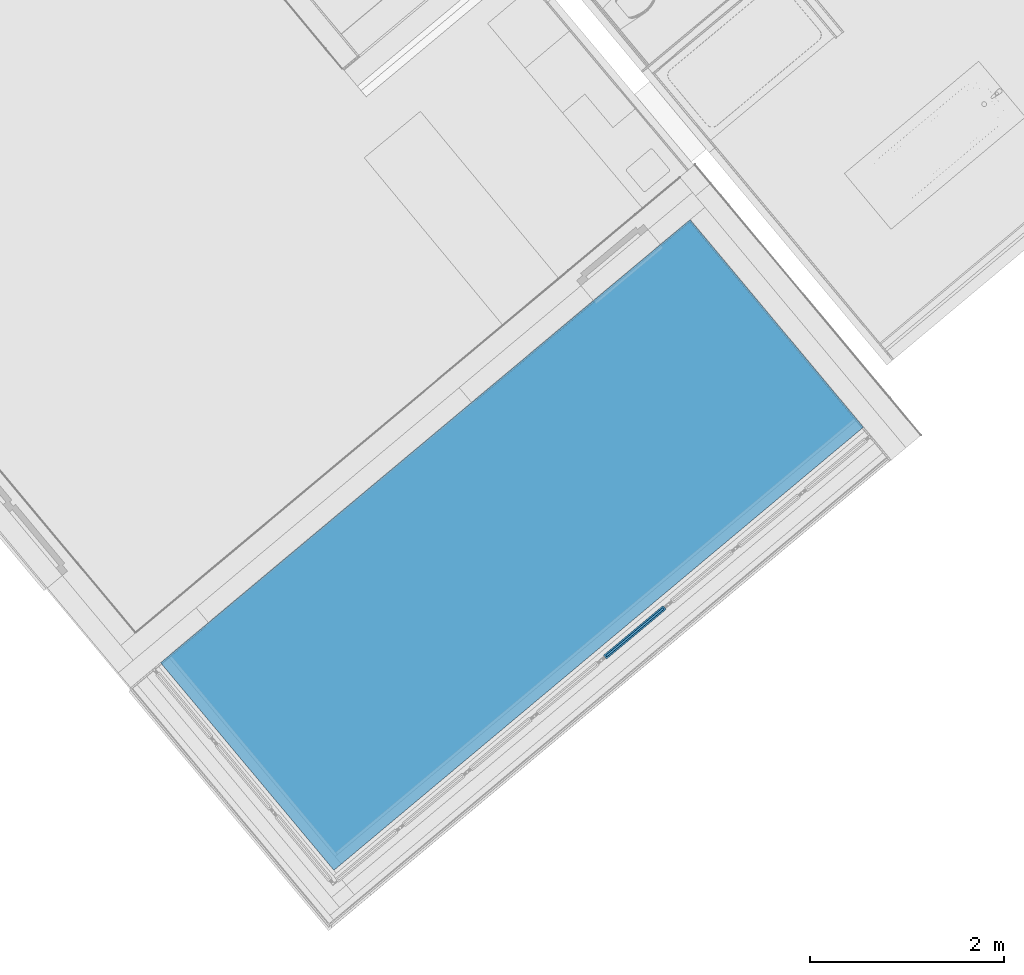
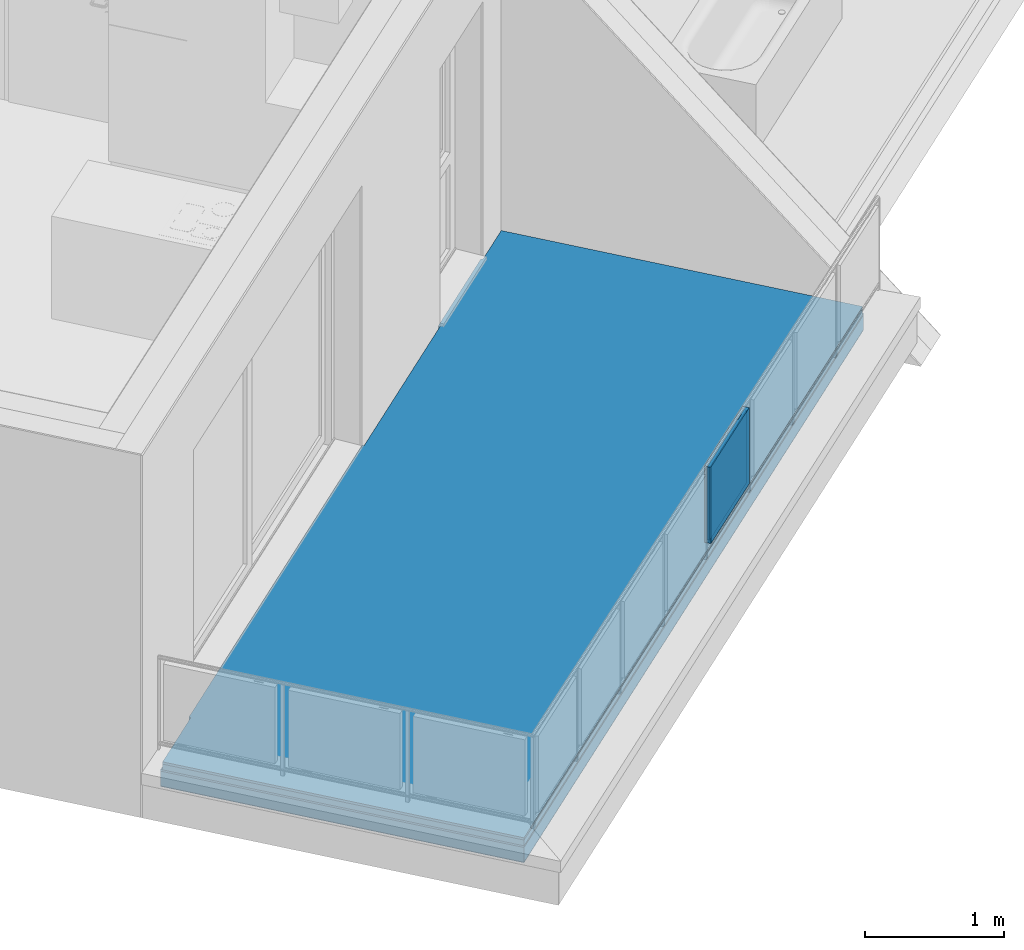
# One storey, part 16 of 50: 7 building element parts, 2 elements without a shape of their own.
"""IFC4 building model written with IfcOpenShell, lengths in metres."""

from ifc_helpers import new_model, entity, si_unit, converted_unit, derived_unit, direction, frame, origin_with_axes, place, context, subcontext, project, spatial, polygons, material, type_object, element, aggregate, save


model = new_model("IFC4")

# Units and contexts
model_context = context("Model", 3, precision=1e-05, world=origin_with_axes(), true_north=direction((0.0, 1.0)))
body_context = subcontext(model_context, "Body", "Model", "MODEL_VIEW")
ifc_project = project(units=[si_unit("LENGTHUNIT", "METRE"), si_unit("AREAUNIT", "SQUARE_METRE"), si_unit("VOLUMEUNIT", "CUBIC_METRE"), converted_unit("PLANEANGLEUNIT", "DEGREE", entity("IfcPlaneAngleMeasure", 0.0174532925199), si_unit("PLANEANGLEUNIT", "RADIAN"), dimensions=[0, 0, 0, 0, 0, 0, 0]), converted_unit("TIMEUNIT", "Year", entity("IfcTimeMeasure", 31556926.0), si_unit("TIMEUNIT", "SECOND"), dimensions=[0, 0, 1, 0, 0, 0, 0]), si_unit("MASSUNIT", "GRAM", prefix="KILO"), si_unit("THERMODYNAMICTEMPERATUREUNIT", "DEGREE_CELSIUS"), si_unit("LUMINOUSINTENSITYUNIT", "LUMEN"), si_unit("ENERGYUNIT", "JOULE", prefix="MEGA"), derived_unit("THERMALCONDUCTANCEUNIT", [(si_unit("POWERUNIT", "WATT"), 1), (si_unit("LENGTHUNIT", "METRE"), -1), (si_unit("THERMODYNAMICTEMPERATUREUNIT", "KELVIN"), -1)]), derived_unit("SPECIFICHEATCAPACITYUNIT", [(si_unit("ENERGYUNIT", "JOULE"), 1), (si_unit("MASSUNIT", "GRAM", prefix="KILO"), -1), (si_unit("THERMODYNAMICTEMPERATUREUNIT", "KELVIN"), -1)]), derived_unit("MASSDENSITYUNIT", [(si_unit("MASSUNIT", "GRAM", prefix="KILO"), 1), (si_unit("VOLUMEUNIT", "CUBIC_METRE"), -1)])], contexts=[model_context])

# Site, building, storey
site_placement = place(None, frame((-0.00153261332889, -0.00661245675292, 0.0), z_axis=(0.0, 0.0, 1.0), x_axis=(1.0, 0.0, 0.0)))
site = spatial("IfcSite", under=ifc_project, at=site_placement, Name="Gelände", CompositionType="ELEMENT")
building_placement = place(site_placement, origin_with_axes())
building = spatial("IfcBuilding", under=site, at=building_placement, Name="Gebäude", CompositionType="ELEMENT")
storey_placement = place(building_placement, frame((0.0, 0.0, 8.66), z_axis=(0.0, 0.0, 1.0), x_axis=(1.0, 0.0, 0.0)))
storey = spatial("IfcBuildingStorey", under=building, at=storey_placement, Name="DG2", CompositionType="ELEMENT", Elevation=8.66)

# Covering, building element parts
covering_type = type_object("IfcCoveringType", Name="Balkon vor Terrasse 220", PredefinedType="NOTDEFINED")
covering_placement = place(storey_placement, frame((-2.99015431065, 12.852759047, 0.0), z_axis=(0.0, 0.0, 1.0), x_axis=(1.0, 0.0, 0.0)))
covering = element("IfcCovering", 1, at=covering_placement, inside=storey, type_object=covering_type, Name="Decke-005", PredefinedType="NOTDEFINED")
ifc_material_1 = material(Name="Platten")
building_element_part_1_placement = place(covering_placement, origin_with_axes())
building_element_part_1 = element("IfcBuildingElementPart", 2, at=building_element_part_1_placement, material=ifc_material_1, Name="Platten", PredefinedType="NOTDEFINED", context=body_context, shape_type="Tessellation", body=[
    polygons([(7.22371968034, 2.41545678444, 0.2), (7.22371968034, 2.41545678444, 0.22), (1.78439120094, -2.13565510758, 0.22), (1.78439120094, -2.13565510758, 0.2), (5.44883995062, 4.53951213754, 0.22), (5.44883995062, 4.53951213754, 0.2), (5.1556124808, 4.2941673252, 0.22), (5.14598684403, 4.3056715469, 0.22), (4.45573354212, 3.72813334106, 0.22), (4.46535917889, 3.71662911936, 0.22), (3.25023922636, 2.69993250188, 0.22), (3.24061358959, 2.71143672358, 0.22), (0.455075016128, 0.380763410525, 0.22), (0.464700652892, 0.369259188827, 0.22), (0.00961764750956, -0.0115109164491, 0.22), (0.00961764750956, -0.0115109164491, 0.2), (0.464700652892, 0.369259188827, 0.2), (0.455075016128, 0.380763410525, 0.2), (3.24061358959, 2.71143672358, 0.2), (3.25023922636, 2.69993250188, 0.2), (4.46535917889, 3.71662911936, 0.2), (4.45573354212, 3.72813334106, 0.2), (5.14598684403, 4.3056715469, 0.2), (5.1556124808, 4.2941673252, 0.2)], [[[1, 2, 3, 4]], [[5, 2, 1, 6]], [[2, 5, 7, 8, 9, 10, 11, 12, 13, 14, 15, 3]], [[15, 16, 4, 3]], [[6, 1, 4, 16, 17, 18, 19, 20, 21, 22, 23, 24]], [[5, 6, 24, 7]], [[8, 7, 24, 23]], [[22, 9, 8, 23]], [[10, 9, 22, 21]], [[11, 10, 21, 20]], [[12, 11, 20, 19]], [[18, 13, 12, 19]], [[14, 13, 18, 17]], [[15, 14, 17, 16]]], closed=True),
])
ifc_material_2 = material(Name="Luftschicht horizontal")
building_element_part_2_placement = place(covering_placement, origin_with_axes())
building_element_part_2 = element("IfcBuildingElementPart", 3, at=building_element_part_2_placement, material=ifc_material_2, Name="Luftschicht horizontal", PredefinedType="NOTDEFINED", context=body_context, shape_type="Tessellation", body=[
    polygons([(7.22371968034, 2.41545678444, 0.15), (7.22371968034, 2.41545678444, 0.2), (1.78439120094, -2.13565510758, 0.2), (1.78439120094, -2.13565510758, 0.15), (5.44883995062, 4.53951213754, 0.2), (5.44883995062, 4.53951213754, 0.15), (5.1556124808, 4.2941673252, 0.2), (5.14598684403, 4.3056715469, 0.2), (4.45573354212, 3.72813334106, 0.2), (4.46535917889, 3.71662911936, 0.2), (3.25023922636, 2.69993250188, 0.2), (3.24061358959, 2.71143672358, 0.2), (0.455075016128, 0.380763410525, 0.2), (0.464700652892, 0.369259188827, 0.2), (0.00961764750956, -0.0115109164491, 0.2), (0.00961764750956, -0.0115109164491, 0.15), (0.464700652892, 0.369259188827, 0.15), (0.455075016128, 0.380763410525, 0.15), (3.24061358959, 2.71143672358, 0.15), (3.25023922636, 2.69993250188, 0.15), (4.46535917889, 3.71662911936, 0.15), (4.45573354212, 3.72813334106, 0.15), (5.14598684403, 4.3056715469, 0.15), (5.1556124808, 4.2941673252, 0.15)], [[[1, 2, 3, 4]], [[5, 2, 1, 6]], [[2, 5, 7, 8, 9, 10, 11, 12, 13, 14, 15, 3]], [[15, 16, 4, 3]], [[6, 1, 4, 16, 17, 18, 19, 20, 21, 22, 23, 24]], [[5, 6, 24, 7]], [[8, 7, 24, 23]], [[22, 9, 8, 23]], [[10, 9, 22, 21]], [[11, 10, 21, 20]], [[12, 11, 20, 19]], [[18, 13, 12, 19]], [[14, 13, 18, 17]], [[15, 14, 17, 16]]], closed=True),
])
ifc_material_3 = material(Name="Sperrschicht")
building_element_part_3_placement = place(covering_placement, origin_with_axes())
building_element_part_3 = element("IfcBuildingElementPart", 4, at=building_element_part_3_placement, material=ifc_material_3, Name="Sperrschicht", PredefinedType="NOTDEFINED", context=body_context, shape_type="Tessellation", body=[
    polygons([(1.78439120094, -2.13565510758, 0.135), (1.78439120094, -2.13565510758, 0.15), (0.0, 0.0, 0.15), (0.0, 0.0, 0.135), (7.23522390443, 2.4250824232, 0.135), (7.23522390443, 2.4250824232, 0.15), (5.4507259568, 4.56064820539, 0.15), (5.4507259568, 4.56064820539, 0.135)], [[[1, 2, 3, 4]], [[5, 6, 2, 1]], [[3, 2, 6, 7]], [[4, 3, 7, 8]], [[4, 8, 5, 1]], [[8, 7, 6, 5]]], closed=True),
])
ifc_material_4 = material(Name="XPS")
building_element_part_4_placement = place(covering_placement, origin_with_axes())
building_element_part_4 = element("IfcBuildingElementPart", 5, at=building_element_part_4_placement, material=ifc_material_4, Name="XPS", PredefinedType="NOTDEFINED", context=body_context, shape_type="Tessellation", body=[
    polygons([(1.78439120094, -2.13565510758, 0.005), (1.78439120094, -2.13565510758, 0.135), (0.0, 0.0, 0.135), (0.0, 0.0, 0.005), (7.23522390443, 2.4250824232, 0.005), (7.23522390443, 2.4250824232, 0.135), (5.4507259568, 4.56064820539, 0.135), (5.4507259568, 4.56064820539, 0.005)], [[[1, 2, 3, 4]], [[5, 6, 2, 1]], [[3, 2, 6, 7]], [[4, 3, 7, 8]], [[4, 8, 5, 1]], [[8, 7, 6, 5]]], closed=True),
])
building_element_part_5_placement = place(covering_placement, origin_with_axes())
building_element_part_5 = element("IfcBuildingElementPart", 6, at=building_element_part_5_placement, material=ifc_material_3, Name="Sperrschicht", PredefinedType="NOTDEFINED", context=body_context, shape_type="Tessellation", body=[
    polygons([(0.0, 0.0, 0.0), (1.78439120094, -2.13565510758, 0.0), (1.78439120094, -2.13565510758, 0.005), (0.0, 0.0, 0.005), (5.4507259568, 4.56064820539, 0.0), (7.23522390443, 2.4250824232, 0.0), (7.23522390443, 2.4250824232, 0.005), (5.4507259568, 4.56064820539, 0.005)], [[[1, 2, 3, 4]], [[1, 5, 6, 2]], [[2, 6, 7, 3]], [[4, 3, 7, 8]], [[5, 1, 4, 8]], [[6, 5, 8, 7]]], closed=True),
])
aggregate(covering, [building_element_part_1, building_element_part_2, building_element_part_3, building_element_part_4, building_element_part_5])

# Space
space_placement = place(storey_placement, frame((2.45868563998, 17.3922711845, 0.22), z_axis=(0.0, 0.0, 1.0), x_axis=(-0.766948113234, -0.641709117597, 0.0)))
space = spatial("IfcSpace", under=storey, at=space_placement, CompositionType="ELEMENT", PredefinedType="NOTDEFINED")

# Railing, building element parts
railing_type = type_object("IfcRailingType", Name="Geländerart", PredefinedType="NOTDEFINED")
railing_placement = place(space_placement, frame((7.13717596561, 0.00077071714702, 0.16), z_axis=(0.0, 0.0, 1.0), x_axis=(-0.766948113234, 0.641709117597, 0.0)))
railing = element("IfcRailing", 7, at=railing_placement, inside=space, type_object=railing_type, Name="Geländer - 001", PredefinedType="NOTDEFINED")
ifc_material_5 = material(Name="Profilit")
building_element_part_6_placement = place(railing_placement, origin_with_axes())
building_element_part_6 = element("IfcBuildingElementPart", 8, at=building_element_part_6_placement, material=ifc_material_5, Name="Profilit", PredefinedType="NOTDEFINED", context=body_context, shape_type="Tessellation", body=[
    polygons([(5.19569313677, 0.608795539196, 0.135), (4.60535705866, 0.11714497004, 0.135), (4.60535705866, 0.11714497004, 0.775), (5.19569313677, 0.608795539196, 0.775), (4.61815619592, 0.101776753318, 0.135), (5.20849227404, 0.593427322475, 0.135), (4.61815619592, 0.101776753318, 0.775), (5.20849227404, 0.593427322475, 0.775)], [[[1, 2, 3, 4]], [[5, 2, 1, 6]], [[7, 3, 2, 5]], [[4, 3, 7, 8]], [[1, 4, 8, 6]], [[7, 5, 6, 8]]], closed=True),
])
ifc_material_6 = material(Name="Aluminium")
building_element_part_7_placement = place(railing_placement, origin_with_axes())
building_element_part_7 = element("IfcBuildingElementPart", 9, at=building_element_part_7_placement, material=ifc_material_6, Name="Aluminium", PredefinedType="NOTDEFINED", context=body_context, shape_type="Tessellation", body=[
    polygons([(4.6754716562, 0.165778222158, 0.12), (4.72926041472, 0.210575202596, 0.12), (4.72926041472, 0.210575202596, 0.095), (4.6754716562, 0.165778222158, 0.095), (4.67867144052, 0.161936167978, 0.12), (4.73246019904, 0.206733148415, 0.12), (4.73246019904, 0.206733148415, 0.095), (4.67867144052, 0.161936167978, 0.095)], [[[1, 2, 3, 4]], [[5, 6, 2, 1]], [[2, 6, 7, 3]], [[4, 3, 7, 8]], [[1, 4, 8, 5]], [[8, 7, 6, 5]]], closed=True),
    polygons([(5.13517789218, 0.548636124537, 0.79), (5.08138913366, 0.503839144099, 0.79), (5.08138913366, 0.503839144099, 0.795), (5.13517789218, 0.548636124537, 0.795), (5.1383776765, 0.544794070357, 0.79), (5.08458891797, 0.499997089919, 0.79), (5.08458891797, 0.499997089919, 0.795), (5.1383776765, 0.544794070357, 0.795)], [[[1, 2, 3, 4]], [[5, 6, 2, 1]], [[2, 6, 7, 3]], [[4, 3, 7, 8]], [[1, 4, 8, 5]], [[8, 7, 6, 5]]], closed=True),
    polygons([(4.61622938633, 0.0806512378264, 0.12), (4.58423154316, 0.11907177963, 0.12), (5.19761994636, 0.629921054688, 0.12), (5.22961778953, 0.591500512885, 0.12), (4.63159760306, 0.0934503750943, 0.14), (4.6219982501, 0.104976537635, 0.14), (4.61815619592, 0.101776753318, 0.135), (4.60535705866, 0.11714497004, 0.135), (4.60919911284, 0.120344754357, 0.14), (4.59959975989, 0.131870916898, 0.14), (5.18225172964, 0.61712191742, 0.14), (5.18225172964, 0.61712191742, 0.77), (4.59959975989, 0.131870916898, 0.77), (4.59959975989, 0.131870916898, 0.14), (4.58423154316, 0.11907177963, 0.12), (4.58423154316, 0.11907177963, 0.79), (5.19761994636, 0.629921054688, 0.79), (5.22961778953, 0.591500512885, 0.79), (4.61622938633, 0.0806512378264, 0.79), (4.61622938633, 0.0806512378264, 0.12), (4.63159760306, 0.0934503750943, 0.14), (4.63159760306, 0.0934503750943, 0.77), (5.21424957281, 0.578701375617, 0.77), (5.21424957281, 0.578701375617, 0.14), (5.20465021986, 0.590227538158, 0.14), (5.20465021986, 0.590227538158, 0.77), (4.6219982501, 0.104976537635, 0.77), (4.6219982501, 0.104976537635, 0.14), (4.61815619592, 0.101776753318, 0.135), (4.61815619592, 0.101776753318, 0.775), (5.20849227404, 0.593427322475, 0.775), (5.20849227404, 0.593427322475, 0.135), (5.19569313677, 0.608795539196, 0.135), (5.19569313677, 0.608795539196, 0.775), (4.60535705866, 0.11714497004, 0.775), (4.60535705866, 0.11714497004, 0.135), (4.60919911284, 0.120344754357, 0.14), (4.60919911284, 0.120344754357, 0.77), (5.19185108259, 0.605595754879, 0.77), (5.19185108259, 0.605595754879, 0.14)], [[[1, 2, 3, 4]], [[1, 5, 6, 7, 8, 9, 10, 2]], [[2, 10, 11, 12, 13, 14, 15, 16, 17, 3]], [[4, 3, 17, 18]], [[5, 1, 4, 18, 19, 20, 21, 22, 23, 24]], [[6, 5, 24, 25]], [[7, 6, 25, 26, 27, 28, 29, 30, 31, 32]], [[8, 7, 32, 33]], [[9, 8, 33, 34, 35, 36, 37, 38, 39, 40]], [[10, 9, 40, 11]], [[11, 40, 39, 12]], [[12, 39, 38, 13]], [[13, 38, 37, 14]], [[20, 15, 14, 37, 36, 29, 28, 21]], [[19, 16, 15, 20]], [[18, 17, 16, 19]], [[27, 22, 21, 28]], [[26, 23, 22, 27]], [[25, 24, 23, 26]], [[35, 30, 29, 36]], [[34, 31, 30, 35]], [[33, 32, 31, 34]]], closed=True),
])
aggregate(railing, [building_element_part_6, building_element_part_7])

save(model, "model.ifc")
